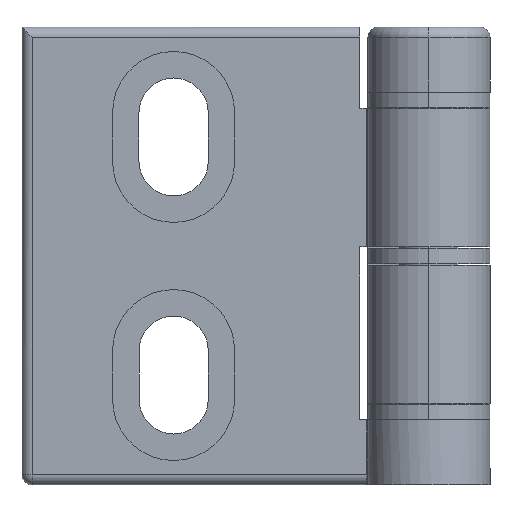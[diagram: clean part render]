
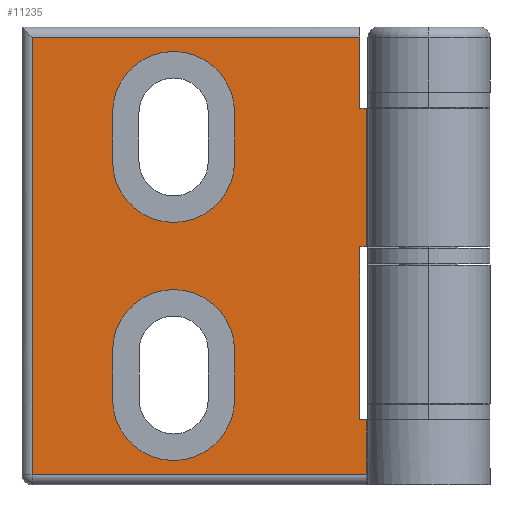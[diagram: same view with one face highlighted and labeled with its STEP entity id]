
A CAD part, left-side view. The second image highlights one B-rep face of the part: STEP entity #11235.
In plain terms, the highlighted planar face has unit normal (-1, 0, 0) as drawn and (0, -1, 0) by its records, which use the part's own axes.
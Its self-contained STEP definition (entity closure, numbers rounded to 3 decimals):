
#56 = FACE_BOUND ( 'NONE', #11189, .T. ) ;
#110 = CARTESIAN_POINT ( 'NONE',  ( 6.8, 1., 38.6 ) ) ;
#182 = DIRECTION ( 'NONE',  ( 0., 0., 1. ) ) ;
#192 = VECTOR ( 'NONE', #14449, 1000. ) ;
#411 = CARTESIAN_POINT ( 'NONE',  ( 6.8, 1., 21.6 ) ) ;
#445 = LINE ( 'NONE', #5146, #15303 ) ;
#487 = EDGE_CURVE ( 'NONE', #11053, #2433, #13464, .T. ) ;
#551 = VERTEX_POINT ( 'NONE', #15673 ) ;
#931 = CARTESIAN_POINT ( 'NONE',  ( 40., 1., 45. ) ) ;
#936 = CARTESIAN_POINT ( 'NONE',  ( 31.1, 1., 31.8 ) ) ;
#1249 = ORIENTED_EDGE ( 'NONE', *, *, #2554, .F. ) ;
#1271 = CARTESIAN_POINT ( 'NONE',  ( 6.148, 1., 21.6 ) ) ;
#1432 = CARTESIAN_POINT ( 'NONE',  ( 6.148, 1., 45. ) ) ;
#1695 = ORIENTED_EDGE ( 'NONE', *, *, #5362, .T. ) ;
#1739 = ORIENTED_EDGE ( 'NONE', *, *, #4501, .T. ) ;
#1869 = CARTESIAN_POINT ( 'NONE',  ( 31.1, 1., 8.4 ) ) ;
#1984 = VERTEX_POINT ( 'NONE', #7399 ) ;
#2012 = ORIENTED_EDGE ( 'NONE', *, *, #4371, .F. ) ;
#2137 = CIRCLE ( 'NONE', #2703, 6. ) ;
#2146 = LINE ( 'NONE', #1432, #5198 ) ;
#2225 = AXIS2_PLACEMENT_3D ( 'NONE', #3528, #13816, #11089 ) ;
#2433 = VERTEX_POINT ( 'NONE', #13292 ) ;
#2554 = EDGE_CURVE ( 'NONE', #8295, #9277, #2137, .T. ) ;
#2613 = CARTESIAN_POINT ( 'NONE',  ( 6.148, 1., 44. ) ) ;
#2630 = EDGE_CURVE ( 'NONE', #9277, #5095, #13825, .T. ) ;
#2693 = CIRCLE ( 'NONE', #14384, 6. ) ;
#2703 = AXIS2_PLACEMENT_3D ( 'NONE', #11560, #9058, #7693 ) ;
#2706 = ORIENTED_EDGE ( 'NONE', *, *, #2897, .T. ) ;
#2897 = EDGE_CURVE ( 'NONE', #2966, #7349, #6012, .T. ) ;
#2902 = VERTEX_POINT ( 'NONE', #7518 ) ;
#2966 = VERTEX_POINT ( 'NONE', #110 ) ;
#3013 = ORIENTED_EDGE ( 'NONE', *, *, #12702, .T. ) ;
#3051 = CIRCLE ( 'NONE', #2225, 6. ) ;
#3169 = EDGE_LOOP ( 'NONE', ( #8170, #1739, #14152, #14993, #2706, #1695, #3013, #4459, #6077, #15328 ) ) ;
#3367 = VECTOR ( 'NONE', #5000, 1000. ) ;
#3384 = CARTESIAN_POINT ( 'NONE',  ( 40., 1., 8. ) ) ;
#3396 = VECTOR ( 'NONE', #13731, 1000. ) ;
#3466 = VERTEX_POINT ( 'NONE', #7004 ) ;
#3528 = CARTESIAN_POINT ( 'NONE',  ( 25.1, 1., 8.4 ) ) ;
#3601 = DIRECTION ( 'NONE',  ( -1., 0., 0. ) ) ;
#3726 = EDGE_CURVE ( 'NONE', #2433, #2902, #14388, .T. ) ;
#4188 = DIRECTION ( 'NONE',  ( 0., 0., -1. ) ) ;
#4194 = LINE ( 'NONE', #10127, #3396 ) ;
#4282 = CARTESIAN_POINT ( 'NONE',  ( 19.1, 1., 36.6 ) ) ;
#4326 = AXIS2_PLACEMENT_3D ( 'NONE', #931, #12495, #3601 ) ;
#4371 = EDGE_CURVE ( 'NONE', #9364, #8295, #6958, .T. ) ;
#4459 = ORIENTED_EDGE ( 'NONE', *, *, #6586, .T. ) ;
#4501 = EDGE_CURVE ( 'NONE', #15272, #6337, #9504, .T. ) ;
#4626 = CARTESIAN_POINT ( 'NONE',  ( 19.1, 1., 8.4 ) ) ;
#5000 = DIRECTION ( 'NONE',  ( 0., 0., -1. ) ) ;
#5061 = ORIENTED_EDGE ( 'NONE', *, *, #12774, .F. ) ;
#5095 = VERTEX_POINT ( 'NONE', #12145 ) ;
#5146 = CARTESIAN_POINT ( 'NONE',  ( 39., 1., 45. ) ) ;
#5198 = VECTOR ( 'NONE', #10397, 1000. ) ;
#5362 = EDGE_CURVE ( 'NONE', #7349, #10550, #4194, .T. ) ;
#5559 = VECTOR ( 'NONE', #4188, 1000. ) ;
#5631 = CARTESIAN_POINT ( 'NONE',  ( 6.8, 1., 45. ) ) ;
#5803 = ORIENTED_EDGE ( 'NONE', *, *, #16139, .F. ) ;
#5887 = DIRECTION ( 'NONE',  ( 0., 0., -1. ) ) ;
#6006 = LINE ( 'NONE', #3384, #11432 ) ;
#6012 = LINE ( 'NONE', #7463, #3367 ) ;
#6077 = ORIENTED_EDGE ( 'NONE', *, *, #13808, .T. ) ;
#6109 = DIRECTION ( 'NONE',  ( 1., 0., 0. ) ) ;
#6191 = DIRECTION ( 'NONE',  ( 1., 0., 0. ) ) ;
#6264 = CARTESIAN_POINT ( 'NONE',  ( 19.1, 1., 31.8 ) ) ;
#6337 = VERTEX_POINT ( 'NONE', #2613 ) ;
#6356 = DIRECTION ( 'NONE',  ( 0., 0., 1. ) ) ;
#6586 = EDGE_CURVE ( 'NONE', #1984, #551, #6006, .T. ) ;
#6751 = DIRECTION ( 'NONE',  ( 0., 0., -1. ) ) ;
#6958 = LINE ( 'NONE', #10197, #15559 ) ;
#7004 = CARTESIAN_POINT ( 'NONE',  ( 6.148, 1., 38.6 ) ) ;
#7006 = LINE ( 'NONE', #11848, #7419 ) ;
#7137 = CARTESIAN_POINT ( 'NONE',  ( 6.8, 1., 1. ) ) ;
#7349 = VERTEX_POINT ( 'NONE', #411 ) ;
#7399 = CARTESIAN_POINT ( 'NONE',  ( 6.148, 1., 8. ) ) ;
#7419 = VECTOR ( 'NONE', #6751, 1000. ) ;
#7463 = CARTESIAN_POINT ( 'NONE',  ( 6.8, 1., 45. ) ) ;
#7518 = CARTESIAN_POINT ( 'NONE',  ( 19.1, 1., 13.2 ) ) ;
#7565 = VERTEX_POINT ( 'NONE', #4626 ) ;
#7693 = DIRECTION ( 'NONE',  ( 1., 0., 0. ) ) ;
#8170 = ORIENTED_EDGE ( 'NONE', *, *, #15120, .T. ) ;
#8295 = VERTEX_POINT ( 'NONE', #6264 ) ;
#8400 = EDGE_CURVE ( 'NONE', #3466, #2966, #13172, .T. ) ;
#8760 = DIRECTION ( 'NONE',  ( 0., -1., 0. ) ) ;
#9058 = DIRECTION ( 'NONE',  ( 0., -1., 0. ) ) ;
#9188 = CARTESIAN_POINT ( 'NONE',  ( 31.1, 1., 8.4 ) ) ;
#9277 = VERTEX_POINT ( 'NONE', #936 ) ;
#9364 = VERTEX_POINT ( 'NONE', #4282 ) ;
#9504 = LINE ( 'NONE', #13251, #13482 ) ;
#9728 = CARTESIAN_POINT ( 'NONE',  ( 40., 1., 1. ) ) ;
#9964 = FACE_BOUND ( 'NONE', #13281, .T. ) ;
#10127 = CARTESIAN_POINT ( 'NONE',  ( 40., 1., 21.6 ) ) ;
#10172 = CARTESIAN_POINT ( 'NONE',  ( 40., 1., 38.6 ) ) ;
#10197 = CARTESIAN_POINT ( 'NONE',  ( 19.1, 1., 36.6 ) ) ;
#10397 = DIRECTION ( 'NONE',  ( 0., 0., -1. ) ) ;
#10550 = VERTEX_POINT ( 'NONE', #1271 ) ;
#10649 = CARTESIAN_POINT ( 'NONE',  ( 39., 1., 44. ) ) ;
#10771 = LINE ( 'NONE', #9728, #16306 ) ;
#11053 = VERTEX_POINT ( 'NONE', #1869 ) ;
#11089 = DIRECTION ( 'NONE',  ( 1., 0., 0. ) ) ;
#11186 = DIRECTION ( 'NONE',  ( 0., -1., 0. ) ) ;
#11189 = EDGE_LOOP ( 'NONE', ( #12977, #5803, #5061, #14479 ) ) ;
#11235 = ADVANCED_FACE ( 'NONE', ( #56, #9964, #11727 ), #12725, .F. ) ;
#11432 = VECTOR ( 'NONE', #6109, 1000. ) ;
#11560 = CARTESIAN_POINT ( 'NONE',  ( 25.1, 1., 31.8 ) ) ;
#11727 = FACE_OUTER_BOUND ( 'NONE', #3169, .T. ) ;
#11730 = CARTESIAN_POINT ( 'NONE',  ( 31.1, 1., 31.8 ) ) ;
#11848 = CARTESIAN_POINT ( 'NONE',  ( 6.148, 1., 45. ) ) ;
#11972 = EDGE_CURVE ( 'NONE', #6337, #3466, #2146, .T. ) ;
#12145 = CARTESIAN_POINT ( 'NONE',  ( 31.1, 1., 36.6 ) ) ;
#12495 = DIRECTION ( 'NONE',  ( 0., 1., 0. ) ) ;
#12558 = ORIENTED_EDGE ( 'NONE', *, *, #14055, .F. ) ;
#12702 = EDGE_CURVE ( 'NONE', #10550, #1984, #7006, .T. ) ;
#12725 = PLANE ( 'NONE',  #4326 ) ;
#12774 = EDGE_CURVE ( 'NONE', #2902, #7565, #16384, .T. ) ;
#12775 = LINE ( 'NONE', #5631, #5559 ) ;
#12977 = ORIENTED_EDGE ( 'NONE', *, *, #487, .F. ) ;
#13027 = VECTOR ( 'NONE', #5887, 1000. ) ;
#13172 = LINE ( 'NONE', #10172, #13556 ) ;
#13251 = CARTESIAN_POINT ( 'NONE',  ( 6.148, 1., 44. ) ) ;
#13281 = EDGE_LOOP ( 'NONE', ( #16245, #1249, #2012, #12558 ) ) ;
#13292 = CARTESIAN_POINT ( 'NONE',  ( 31.1, 1., 13.2 ) ) ;
#13355 = DIRECTION ( 'NONE',  ( -1., 0., 0. ) ) ;
#13372 = VERTEX_POINT ( 'NONE', #14863 ) ;
#13464 = LINE ( 'NONE', #9188, #192 ) ;
#13482 = VECTOR ( 'NONE', #13355, 1000. ) ;
#13556 = VECTOR ( 'NONE', #14098, 1000. ) ;
#13731 = DIRECTION ( 'NONE',  ( -1., 0., 0. ) ) ;
#13808 = EDGE_CURVE ( 'NONE', #551, #14617, #12775, .T. ) ;
#13816 = DIRECTION ( 'NONE',  ( 0., -1., 0. ) ) ;
#13825 = LINE ( 'NONE', #11730, #14610 ) ;
#13859 = DIRECTION ( 'NONE',  ( 1., 0., 0. ) ) ;
#14055 = EDGE_CURVE ( 'NONE', #5095, #9364, #2693, .T. ) ;
#14098 = DIRECTION ( 'NONE',  ( 1., 0., 0. ) ) ;
#14152 = ORIENTED_EDGE ( 'NONE', *, *, #11972, .T. ) ;
#14384 = AXIS2_PLACEMENT_3D ( 'NONE', #15181, #11186, #13859 ) ;
#14388 = CIRCLE ( 'NONE', #16304, 6. ) ;
#14449 = DIRECTION ( 'NONE',  ( 0., 0., 1. ) ) ;
#14479 = ORIENTED_EDGE ( 'NONE', *, *, #3726, .F. ) ;
#14610 = VECTOR ( 'NONE', #182, 1000. ) ;
#14617 = VERTEX_POINT ( 'NONE', #7137 ) ;
#14820 = DIRECTION ( 'NONE',  ( 1., 0., 0. ) ) ;
#14863 = CARTESIAN_POINT ( 'NONE',  ( 39., 1., 1. ) ) ;
#14993 = ORIENTED_EDGE ( 'NONE', *, *, #8400, .T. ) ;
#15120 = EDGE_CURVE ( 'NONE', #13372, #15272, #445, .T. ) ;
#15181 = CARTESIAN_POINT ( 'NONE',  ( 25.1, 1., 36.6 ) ) ;
#15272 = VERTEX_POINT ( 'NONE', #10649 ) ;
#15303 = VECTOR ( 'NONE', #6356, 1000. ) ;
#15328 = ORIENTED_EDGE ( 'NONE', *, *, #15472, .T. ) ;
#15472 = EDGE_CURVE ( 'NONE', #14617, #13372, #10771, .T. ) ;
#15559 = VECTOR ( 'NONE', #16443, 1000. ) ;
#15673 = CARTESIAN_POINT ( 'NONE',  ( 6.8, 1., 8. ) ) ;
#15996 = CARTESIAN_POINT ( 'NONE',  ( 19.1, 1., 13.2 ) ) ;
#16139 = EDGE_CURVE ( 'NONE', #7565, #11053, #3051, .T. ) ;
#16245 = ORIENTED_EDGE ( 'NONE', *, *, #2630, .F. ) ;
#16304 = AXIS2_PLACEMENT_3D ( 'NONE', #16351, #8760, #6191 ) ;
#16306 = VECTOR ( 'NONE', #14820, 1000. ) ;
#16351 = CARTESIAN_POINT ( 'NONE',  ( 25.1, 1., 13.2 ) ) ;
#16384 = LINE ( 'NONE', #15996, #13027 ) ;
#16443 = DIRECTION ( 'NONE',  ( 0., 0., -1. ) ) ;
